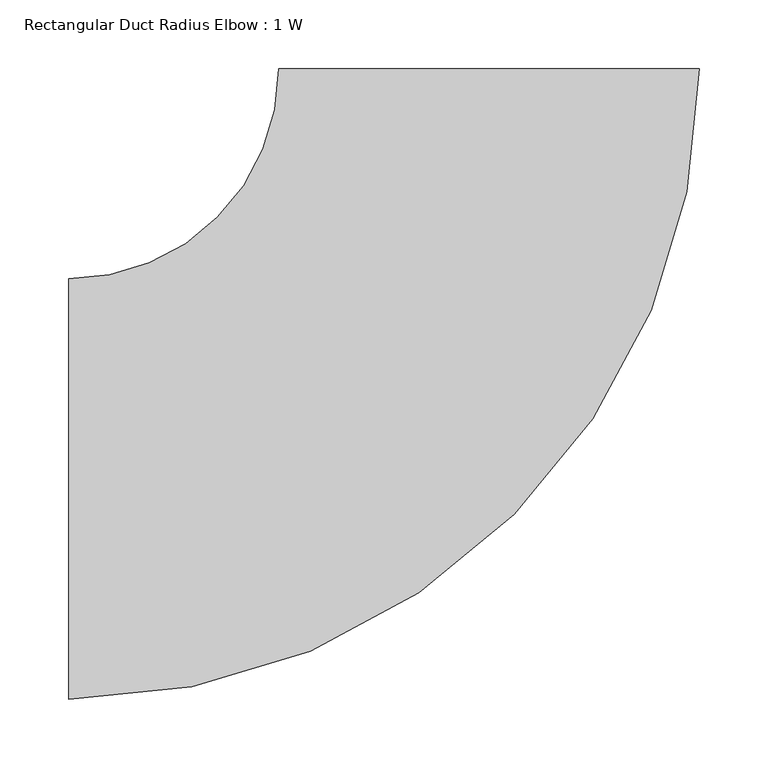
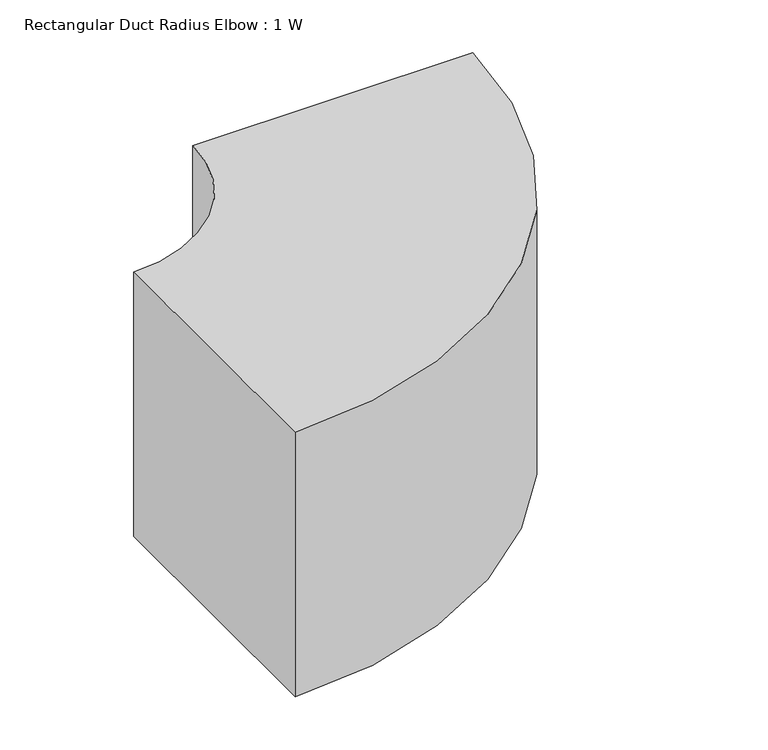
"""IFC4 building model written with IfcOpenShell, lengths in millimetres: duct fitting geometry, Rectangular Duct Radius Elbow : 1 W."""

from ifc_helpers import new_model, si_unit, point, frame, frame_2d, origin, place, context, project, spatial, polyline, circle_curve, trimmed, segment, composite_curve, outline, extrude, source, transform, mapped, element, save


def rectangular_duct_radius_elbow_1_w_c7ce8194(model_context):
    return source(origin(), model_context, "Body", "SweptSolid", [
        extrude(outline(composite_curve([segment(trimmed(circle_curve(frame_2d((-304.8, 304.8)), 457.2), [point((152.4, 304.8))], [point((-304.8, -152.4))], False, "CARTESIAN"), True, "CONTINUOUS"), segment(polyline([(-304.8, -152.4), (-304.8, 152.4)]), True, "CONTINUOUS"), segment(trimmed(circle_curve(frame_2d((-304.8, 304.8)), 152.4), [point((-304.8, 152.4))], [point((-152.4, 304.8))], True, "CARTESIAN"), True, "CONTINUOUS"), segment(polyline([(-152.4, 304.8), (152.4, 304.8)]), True, "CONTINUOUS")], self_intersect=False)), frame((0.0, 0.0, -152.4), z_axis=(0.0, 0.0, 1.0), x_axis=(1.0, 0.0, 0.0)), (0.0, 0.0, 1.0), 304.8),
        extrude(outline(composite_curve([segment(trimmed(circle_curve(frame_2d((-304.8, 304.8)), 457.2), [point((152.4, 304.8))], [point((-304.8, -152.4))], False, "CARTESIAN"), True, "CONTINUOUS"), segment(polyline([(-304.8, -152.4), (-304.8, 152.4)]), True, "CONTINUOUS"), segment(trimmed(circle_curve(frame_2d((-304.8, 304.8)), 152.4), [point((-304.8, 152.4))], [point((-152.4, 304.8))], True, "CARTESIAN"), True, "CONTINUOUS"), segment(polyline([(-152.4, 304.8), (152.4, 304.8)]), True, "CONTINUOUS")], self_intersect=False)), frame((0.0, 0.0, -152.4), z_axis=(0.0, 0.0, 1.0), x_axis=(1.0, 0.0, 0.0)), (0.0, 0.0, 1.0), 304.8),
        extrude(outline(composite_curve([segment(trimmed(circle_curve(frame_2d((-304.8, 304.8)), 457.2), [point((152.4, 304.8))], [point((-304.8, -152.4))], False, "CARTESIAN"), True, "CONTINUOUS"), segment(polyline([(-304.8, -152.4), (-304.8, 152.4)]), True, "CONTINUOUS"), segment(trimmed(circle_curve(frame_2d((-304.8, 304.8)), 152.4), [point((-304.8, 152.4))], [point((-152.4, 304.8))], True, "CARTESIAN"), True, "CONTINUOUS"), segment(polyline([(-152.4, 304.8), (152.4, 304.8)]), True, "CONTINUOUS")], self_intersect=False)), frame((0.0, 0.0, -152.4), z_axis=(0.0, 0.0, 1.0), x_axis=(1.0, 0.0, 0.0)), (0.0, 0.0, 1.0), 304.8),
    ])


if __name__ == "__main__":
    model = new_model("IFC4")
    model_context = context("Model", 3, world=origin())
    ifc_project = project(units=[si_unit("LENGTHUNIT", "METRE", prefix="MILLI")], contexts=[model_context])
    site = spatial("IfcSite", under=ifc_project)
    building = spatial("IfcBuilding", under=site)
    placement = place(None, origin())
    rectangular_duct_radius_elbow_1_w_shape = rectangular_duct_radius_elbow_1_w_c7ce8194(model_context)
    element("IfcDuctFitting", 1, ObjectType="Rectangular Duct Radius Elbow : 1 W", at=placement, inside=building, context=model_context, shape_type="MappedRepresentation", body=[
        mapped(rectangular_duct_radius_elbow_1_w_shape, transform((0.0, 0.0, 0.0), x_axis=(1.0, 0.0, 0.0), y_axis=(0.0, 1.0, 0.0), z_axis=(0.0, 0.0, 1.0))),
    ])
    save(model, "model.ifc")
